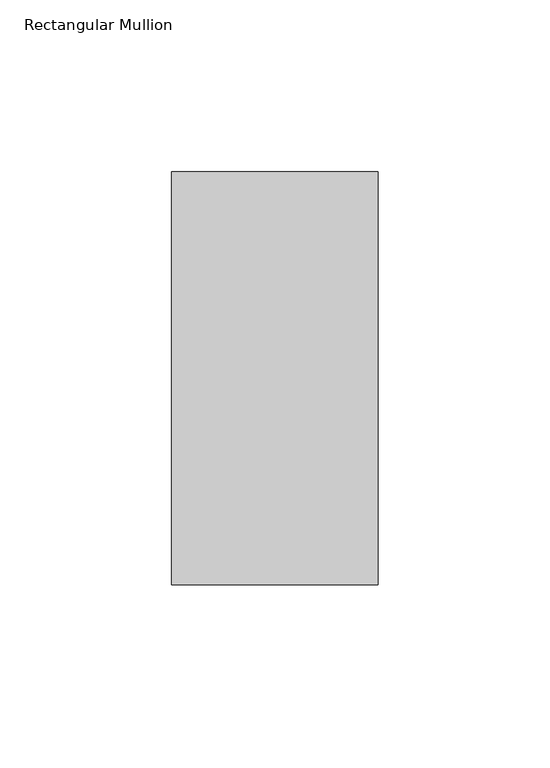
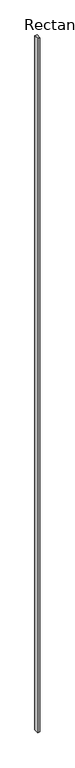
"""IFC4 building model written with IfcOpenShell, lengths in millimetres: member geometry, Rectangular Mullion : Terça."""

import ifcopenshell
import ifcopenshell.guid

model = None  # the IFC model being written
_history = None  # IfcOwnerHistory: only IFC2X3 demands one
_inside = {}  # id of a spatial element -> (the spatial element, [elements in it])
_under = {}  # id of a project, library or spatial element -> (it, [spatial elements below it])
_declared = {}  # id of a project -> (the project, [libraries it declares])
_typed = {}  # id of a type object -> (the type object, [elements of that type])
_made_of = {}  # id of a material, layer set ... -> (it, [elements and type objects made of it])


def new_model(schema):
    """Start an empty IFC model of exactly this schema.

    Asked for "IFC4X3", IfcOpenShell would pick the latest addendum, in which some entities
    have other attributes; the version numbers below select the first issue.
    IFC2X3 requires an IfcOwnerHistory on every rooted entity: one is made here for all.
    """
    global model, _history
    if schema == "IFC4X3":
        model = ifcopenshell.file(schema_version=(4, 3, 0, 0))
    else:
        model = ifcopenshell.file(schema=schema)
    _inside.clear()
    _under.clear()
    _declared.clear()
    _typed.clear()
    _made_of.clear()
    _history = None
    if model.schema == "IFC2X3":
        org = make("IfcOrganization", Name="unknown")
        user = make(
            "IfcPersonAndOrganization",
            ThePerson=make("IfcPerson", FamilyName="unknown"),
            TheOrganization=org,
        )
        app = make(
            "IfcApplication",
            ApplicationDeveloper=org,
            Version="unknown",
            ApplicationFullName="unknown",
            ApplicationIdentifier="unknown",
        )
        _history = make(
            "IfcOwnerHistory",
            OwningUser=user,
            OwningApplication=app,
            ChangeAction="ADDED",
            CreationDate=0,
        )
    return model


def make(cls, **values):
    """One entity of the class cls with the attributes given. An attribute that is None is left unset."""
    return model.create_entity(
        cls, **{name: value for name, value in values.items() if value is not None}
    )


def rooted(cls, **values):
    """An entity with a GlobalId (a new one), such as an element, a storey or a relation."""
    return make(cls, GlobalId=ifcopenshell.guid.new(), OwnerHistory=_history, **values)


def si_unit(unit_type, name, prefix=None):
    """IfcSIUnit, for example si_unit("LENGTHUNIT", "METRE", prefix="MILLI")."""
    return make("IfcSIUnit", UnitType=unit_type, Prefix=prefix, Name=name)


def assignment(units):
    """IfcUnitAssignment: the units of a project."""
    return None if units is None else make("IfcUnitAssignment", Units=units)


def point(xyz):
    """IfcCartesianPoint."""
    return None if xyz is None else make("IfcCartesianPoint", Coordinates=xyz)


def direction(xyz):
    """IfcDirection."""
    return None if xyz is None else make("IfcDirection", DirectionRatios=xyz)


def frame(location, z_axis=None, x_axis=None):
    """IfcAxis2Placement3D, a coordinate frame: its origin and axes. An axis left out is left unset."""
    return make(
        "IfcAxis2Placement3D",
        Location=point(location),
        Axis=direction(z_axis),
        RefDirection=direction(x_axis),
    )


def origin():
    """The frame at (0, 0, 0) with its axes left unset."""
    return frame((0.0, 0.0, 0.0))


def place(relative_to, where):
    """IfcLocalPlacement: puts the frame where relative to a parent placement (None: the world)."""
    return make(
        "IfcLocalPlacement", PlacementRelTo=relative_to, RelativePlacement=where
    )


def context(
    kind, dimensions, precision=None, world=None, true_north=None, identifier=None
):
    """IfcGeometricRepresentationContext, for example the 3D "Model" context."""
    return make(
        "IfcGeometricRepresentationContext",
        ContextIdentifier=identifier,
        ContextType=kind,
        CoordinateSpaceDimension=dimensions,
        Precision=precision,
        WorldCoordinateSystem=world,
        TrueNorth=true_north,
    )


def project(units=None, contexts=None):
    """IfcProject with its units and contexts."""
    return rooted(
        "IfcProject",
        Name="project",
        RepresentationContexts=contexts,
        UnitsInContext=assignment(units),
    )


def spatial(cls, under=None, at=None, **own):
    """A site, building, storey or space (cls), placed at a placement, below another one or the project."""
    s = rooted(cls, ObjectPlacement=at, **own)
    if under is not None:
        _under.setdefault(under.id(), (under, []))[1].append(s)
    return s


def polyline(points):
    """IfcPolyline through the points."""
    return make("IfcPolyline", Points=[point(p) for p in points])


def outline(outer, holes=None, kind="AREA"):
    """IfcArbitraryClosedProfileDef: a profile drawn as a closed curve; with holes, ...WithVoids."""
    if holes is None:
        return make("IfcArbitraryClosedProfileDef", ProfileType=kind, OuterCurve=outer)
    return make(
        "IfcArbitraryProfileDefWithVoids",
        ProfileType=kind,
        OuterCurve=outer,
        InnerCurves=holes,
    )


def extrude(swept, where, along, depth):
    """IfcExtrudedAreaSolid: the profile swept, set in the frame where, extruded along a direction by depth."""
    return make(
        "IfcExtrudedAreaSolid",
        SweptArea=swept,
        Position=where,
        ExtrudedDirection=direction(along),
        Depth=depth,
    )


def shape(context_of_items, identifier, shape_type, items):
    """IfcShapeRepresentation: the items that make up one representation, for example the "Body"."""
    return make(
        "IfcShapeRepresentation",
        ContextOfItems=context_of_items,
        RepresentationIdentifier=identifier,
        RepresentationType=shape_type,
        Items=items,
    )


def source(mapping_origin, context_of_items, identifier, shape_type, items):
    """IfcRepresentationMap: a shape defined once, which mapped items show again and again."""
    return make(
        "IfcRepresentationMap",
        MappingOrigin=mapping_origin,
        MappedRepresentation=shape(context_of_items, identifier, shape_type, items),
    )


def transform(
    local_origin,
    x_axis=None,
    y_axis=None,
    z_axis=None,
    scale=None,
    scale2=None,
    scale3=None,
    uniform=True,
):
    """IfcCartesianTransformationOperator3D, or its non-uniform kind. x_axis, y_axis, z_axis: its Axis1, 2, 3."""
    if uniform:
        return make(
            "IfcCartesianTransformationOperator3D",
            Axis1=direction(x_axis),
            Axis2=direction(y_axis),
            LocalOrigin=point(local_origin),
            Scale=scale,
            Axis3=direction(z_axis),
        )
    return make(
        "IfcCartesianTransformationOperator3DnonUniform",
        Axis1=direction(x_axis),
        Axis2=direction(y_axis),
        LocalOrigin=point(local_origin),
        Scale=scale,
        Axis3=direction(z_axis),
        Scale2=scale2,
        Scale3=scale3,
    )


def mapped(mapping_source, mapping_target):
    """IfcMappedItem: shows the shape of a source again, moved by a transform."""
    return make(
        "IfcMappedItem", MappingSource=mapping_source, MappingTarget=mapping_target
    )


def made_of(thing, what):
    """Note that an element or type object is made of a material, layer set ...; save() writes the relation."""
    if what is not None:
        _made_of.setdefault(what.id(), (what, []))[1].append(thing)
    return thing


def element(
    cls,
    number,
    at=None,
    inside=None,
    cuts=None,
    type_object=None,
    material=None,
    context=None,
    identifier="Body",
    shape_type=None,
    held_by="IfcProductDefinitionShape",
    body=None,
    shapes=None,
    **own,
):
    """One element of the class cls, such as IfcWall. Its Tag is "e" and its number.

    at: its placement. inside: the storey or other place that contains it. cuts: it is an
    opening in that element (IfcRelVoidsElement). A single representation is given by context,
    identifier, shape_type and body (its items); several are given by shapes. held_by: the class
    of the entity that holds the representations. save() writes the other relations.
    """
    e = rooted(cls, Tag="e%d" % number, ObjectPlacement=at, **own)
    if body is not None:
        shapes = [shape(context, identifier, shape_type, body)]
    if shapes is not None:
        e.Representation = make(held_by, Representations=shapes)
    if inside is not None:
        _inside.setdefault(inside.id(), (inside, []))[1].append(e)
    if cuts is not None:
        rooted(
            "IfcRelVoidsElement", RelatingBuildingElement=cuts, RelatedOpeningElement=e
        )
    if type_object is not None:
        _typed.setdefault(type_object.id(), (type_object, []))[1].append(e)
    return made_of(e, material)


def aggregate(whole, parts):
    """IfcRelAggregates: a whole, such as a stair, and the parts it consists of."""
    return rooted("IfcRelAggregates", RelatingObject=whole, RelatedObjects=parts)


def save(model, path):
    """Write the relations noted so far, then the file.

    IfcRelAggregates (storeys below a building ...), IfcRelContainedInSpatialStructure (elements
    in a storey), IfcRelDefinesByType, IfcRelAssociatesMaterial and IfcRelDeclares: one each for
    every whole, place, type object, material and project.
    """
    for whole, parts in _under.values():
        aggregate(whole, parts)
    for where, things in _inside.values():
        rooted(
            "IfcRelContainedInSpatialStructure",
            RelatedElements=things,
            RelatingStructure=where,
        )
    for kind, things in _typed.values():
        rooted("IfcRelDefinesByType", RelatedObjects=things, RelatingType=kind)
    for what, things in _made_of.values():
        rooted("IfcRelAssociatesMaterial", RelatedObjects=things, RelatingMaterial=what)
    for by, libraries in _declared.values():
        rooted("IfcRelDeclares", RelatingContext=by, RelatedDefinitions=libraries)
    model.write(path)


def rectangular_mullion_02370a10(model_context):
    return source(origin(), model_context, "Body", "SweptSolid", [
        extrude(outline(polyline([(30.0, -120.0), (-30.0, -120.0), (-30.0, 0.0), (30.0, 0.0), (30.0, -120.0)])), frame((0.0, 0.0, -19200.0), z_axis=(0.0, 0.0, 1.0), x_axis=(1.0, 0.0, 0.0)), (0.0, 0.0, 1.0), 19200.0),
    ])


if __name__ == "__main__":
    model = new_model("IFC4")
    model_context = context("Model", 3, world=origin())
    ifc_project = project(units=[si_unit("LENGTHUNIT", "METRE", prefix="MILLI")], contexts=[model_context])
    site = spatial("IfcSite", under=ifc_project)
    building = spatial("IfcBuilding", under=site)
    placement = place(None, origin())
    rectangular_mullion_shape = rectangular_mullion_02370a10(model_context)
    element("IfcMember", 1, ObjectType="Rectangular Mullion : Terça", at=placement, inside=building, context=model_context, shape_type="MappedRepresentation", body=[
        mapped(rectangular_mullion_shape, transform((0.0, 0.0, 0.0), x_axis=(1.0, 0.0, 0.0), y_axis=(0.0, 1.0, 0.0), z_axis=(0.0, 0.0, 1.0))),
    ])
    save(model, "model.ifc")
